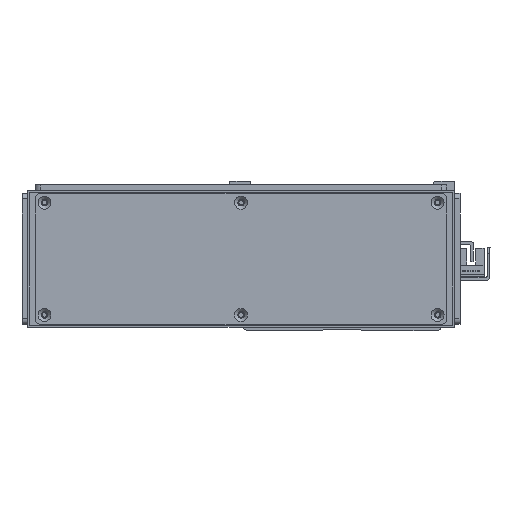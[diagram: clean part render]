
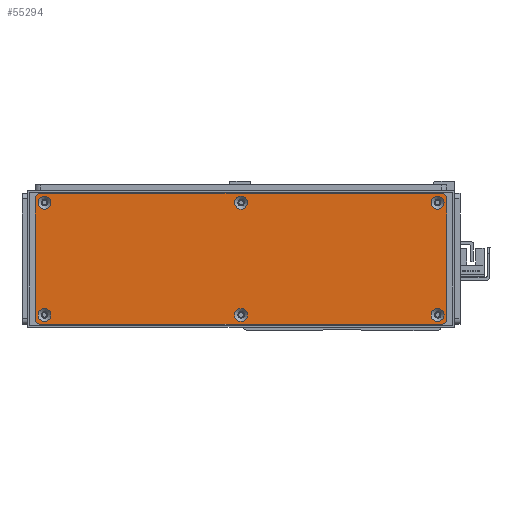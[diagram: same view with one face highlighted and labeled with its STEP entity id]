
A CAD part, front view. The second image highlights one B-rep face of the part: STEP entity #55294.
In plain terms, the highlighted planar face has unit normal (0, -1, 0).
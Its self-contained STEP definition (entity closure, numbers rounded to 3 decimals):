
#2185=FACE_BOUND('',#9279,.T.);
#2186=FACE_BOUND('',#9280,.T.);
#2187=FACE_BOUND('',#9281,.T.);
#2188=FACE_BOUND('',#9282,.T.);
#2189=FACE_BOUND('',#9283,.T.);
#2190=FACE_BOUND('',#9284,.T.);
#3359=CIRCLE('',#59552,3.45);
#3362=CIRCLE('',#59557,3.45);
#3365=CIRCLE('',#59562,3.45);
#3368=CIRCLE('',#59567,3.45);
#3371=CIRCLE('',#59572,3.45);
#3374=CIRCLE('',#59577,3.45);
#3377=CIRCLE('',#59582,3.);
#3379=CIRCLE('',#59585,3.);
#3380=CIRCLE('',#59586,3.);
#3381=CIRCLE('',#59587,3.);
#6106=FACE_OUTER_BOUND('',#9278,.T.);
#9278=EDGE_LOOP('',(#49942,#49943,#49944,#49945,#49946,#49947,#49948,#49949));
#9279=EDGE_LOOP('',(#49950));
#9280=EDGE_LOOP('',(#49951));
#9281=EDGE_LOOP('',(#49952));
#9282=EDGE_LOOP('',(#49953));
#9283=EDGE_LOOP('',(#49954));
#9284=EDGE_LOOP('',(#49955));
#15574=LINE('',#91133,#21901);
#15575=LINE('',#91137,#21902);
#15576=LINE('',#91141,#21903);
#15577=LINE('',#91144,#21904);
#21901=VECTOR('',#73594,10.);
#21902=VECTOR('',#73597,10.);
#21903=VECTOR('',#73600,10.);
#21904=VECTOR('',#73603,10.);
#27082=VERTEX_POINT('',#91063);
#27085=VERTEX_POINT('',#91073);
#27088=VERTEX_POINT('',#91083);
#27091=VERTEX_POINT('',#91093);
#27094=VERTEX_POINT('',#91103);
#27097=VERTEX_POINT('',#91113);
#27100=VERTEX_POINT('',#91123);
#27101=VERTEX_POINT('',#91124);
#27104=VERTEX_POINT('',#91132);
#27105=VERTEX_POINT('',#91134);
#27106=VERTEX_POINT('',#91136);
#27107=VERTEX_POINT('',#91138);
#27108=VERTEX_POINT('',#91140);
#27109=VERTEX_POINT('',#91142);
#34722=EDGE_CURVE('',#27082,#27082,#3359,.T.);
#34727=EDGE_CURVE('',#27085,#27085,#3362,.T.);
#34732=EDGE_CURVE('',#27088,#27088,#3365,.T.);
#34737=EDGE_CURVE('',#27091,#27091,#3368,.T.);
#34742=EDGE_CURVE('',#27094,#27094,#3371,.T.);
#34747=EDGE_CURVE('',#27097,#27097,#3374,.T.);
#34752=EDGE_CURVE('',#27100,#27101,#3377,.T.);
#34756=EDGE_CURVE('',#27100,#27104,#15574,.T.);
#34757=EDGE_CURVE('',#27105,#27104,#3379,.T.);
#34758=EDGE_CURVE('',#27105,#27106,#15575,.T.);
#34759=EDGE_CURVE('',#27107,#27106,#3380,.T.);
#34760=EDGE_CURVE('',#27107,#27108,#15576,.T.);
#34761=EDGE_CURVE('',#27109,#27108,#3381,.T.);
#34762=EDGE_CURVE('',#27109,#27101,#15577,.T.);
#49942=ORIENTED_EDGE('',*,*,#34752,.F.);
#49943=ORIENTED_EDGE('',*,*,#34756,.T.);
#49944=ORIENTED_EDGE('',*,*,#34757,.F.);
#49945=ORIENTED_EDGE('',*,*,#34758,.T.);
#49946=ORIENTED_EDGE('',*,*,#34759,.F.);
#49947=ORIENTED_EDGE('',*,*,#34760,.T.);
#49948=ORIENTED_EDGE('',*,*,#34761,.F.);
#49949=ORIENTED_EDGE('',*,*,#34762,.T.);
#49950=ORIENTED_EDGE('',*,*,#34722,.T.);
#49951=ORIENTED_EDGE('',*,*,#34727,.T.);
#49952=ORIENTED_EDGE('',*,*,#34732,.T.);
#49953=ORIENTED_EDGE('',*,*,#34737,.T.);
#49954=ORIENTED_EDGE('',*,*,#34742,.T.);
#49955=ORIENTED_EDGE('',*,*,#34747,.T.);
#52590=PLANE('',#59584);
#55294=ADVANCED_FACE('',(#6106,#2185,#2186,#2187,#2188,#2189,#2190),#52590,
 .T.);
#59552=AXIS2_PLACEMENT_3D('',#91064,#73514,#73515);
#59557=AXIS2_PLACEMENT_3D('',#91074,#73526,#73527);
#59562=AXIS2_PLACEMENT_3D('',#91084,#73538,#73539);
#59567=AXIS2_PLACEMENT_3D('',#91094,#73550,#73551);
#59572=AXIS2_PLACEMENT_3D('',#91104,#73562,#73563);
#59577=AXIS2_PLACEMENT_3D('',#91114,#73574,#73575);
#59582=AXIS2_PLACEMENT_3D('',#91125,#73586,#73587);
#59584=AXIS2_PLACEMENT_3D('',#91131,#73592,#73593);
#59585=AXIS2_PLACEMENT_3D('',#91135,#73595,#73596);
#59586=AXIS2_PLACEMENT_3D('',#91139,#73598,#73599);
#59587=AXIS2_PLACEMENT_3D('',#91143,#73601,#73602);
#73514=DIRECTION('center_axis',(0.,1.,0.));
#73515=DIRECTION('ref_axis',(1.,0.,0.));
#73526=DIRECTION('center_axis',(0.,1.,0.));
#73527=DIRECTION('ref_axis',(1.,0.,0.));
#73538=DIRECTION('center_axis',(0.,1.,0.));
#73539=DIRECTION('ref_axis',(1.,0.,0.));
#73550=DIRECTION('center_axis',(0.,1.,0.));
#73551=DIRECTION('ref_axis',(1.,0.,0.));
#73562=DIRECTION('center_axis',(0.,1.,0.));
#73563=DIRECTION('ref_axis',(1.,0.,0.));
#73574=DIRECTION('center_axis',(0.,1.,0.));
#73575=DIRECTION('ref_axis',(1.,0.,0.));
#73586=DIRECTION('center_axis',(0.,1.,0.));
#73587=DIRECTION('ref_axis',(-0.707,0.,0.707));
#73592=DIRECTION('center_axis',(0.,-1.,0.));
#73593=DIRECTION('ref_axis',(0.,0.,-1.));
#73594=DIRECTION('',(0.,0.,-1.));
#73595=DIRECTION('center_axis',(0.,1.,0.));
#73596=DIRECTION('ref_axis',(-0.707,0.,-0.707));
#73597=DIRECTION('',(1.,0.,0.));
#73598=DIRECTION('center_axis',(0.,1.,0.));
#73599=DIRECTION('ref_axis',(0.707,0.,-0.707));
#73600=DIRECTION('',(0.,0.,1.));
#73601=DIRECTION('center_axis',(0.,1.,0.));
#73602=DIRECTION('ref_axis',(0.707,0.,0.707));
#73603=DIRECTION('',(-1.,0.,0.));
#91063=CARTESIAN_POINT('',(101.55,-1.5,30.));
#91064=CARTESIAN_POINT('Origin',(105.,-1.5,30.));
#91073=CARTESIAN_POINT('',(-3.45,-1.5,-30.));
#91074=CARTESIAN_POINT('Origin',(0.,-1.5,-30.));
#91083=CARTESIAN_POINT('',(-108.45,-1.5,30.));
#91084=CARTESIAN_POINT('Origin',(-105.,-1.5,30.));
#91093=CARTESIAN_POINT('',(-108.45,-1.5,-30.));
#91094=CARTESIAN_POINT('Origin',(-105.,-1.5,-30.));
#91103=CARTESIAN_POINT('',(-3.45,-1.5,30.));
#91104=CARTESIAN_POINT('Origin',(0.,-1.5,30.));
#91113=CARTESIAN_POINT('',(101.55,-1.5,-30.));
#91114=CARTESIAN_POINT('Origin',(105.,-1.5,-30.));
#91123=CARTESIAN_POINT('',(-110.,-1.5,32.));
#91124=CARTESIAN_POINT('',(-107.,-1.5,35.));
#91125=CARTESIAN_POINT('Origin',(-107.,-1.5,32.));
#91131=CARTESIAN_POINT('Origin',(0.,-1.5,0.));
#91132=CARTESIAN_POINT('',(-110.,-1.5,-32.));
#91133=CARTESIAN_POINT('',(-110.,-1.5,35.));
#91134=CARTESIAN_POINT('',(-107.,-1.5,-35.));
#91135=CARTESIAN_POINT('Origin',(-107.,-1.5,-32.));
#91136=CARTESIAN_POINT('',(107.,-1.5,-35.));
#91137=CARTESIAN_POINT('',(-110.,-1.5,-35.));
#91138=CARTESIAN_POINT('',(110.,-1.5,-32.));
#91139=CARTESIAN_POINT('Origin',(107.,-1.5,-32.));
#91140=CARTESIAN_POINT('',(110.,-1.5,32.));
#91141=CARTESIAN_POINT('',(110.,-1.5,-35.));
#91142=CARTESIAN_POINT('',(107.,-1.5,35.));
#91143=CARTESIAN_POINT('Origin',(107.,-1.5,32.));
#91144=CARTESIAN_POINT('',(110.,-1.5,35.));
